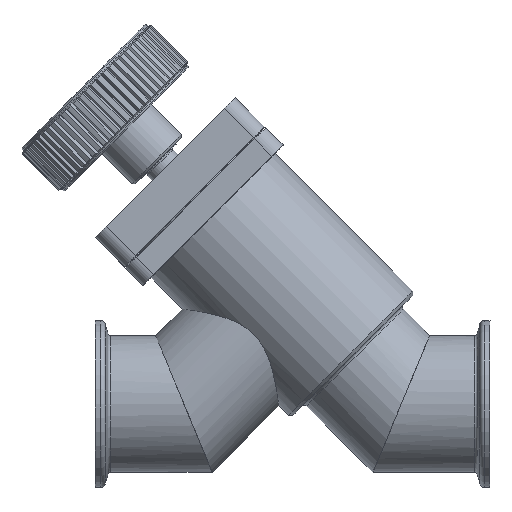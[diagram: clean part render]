
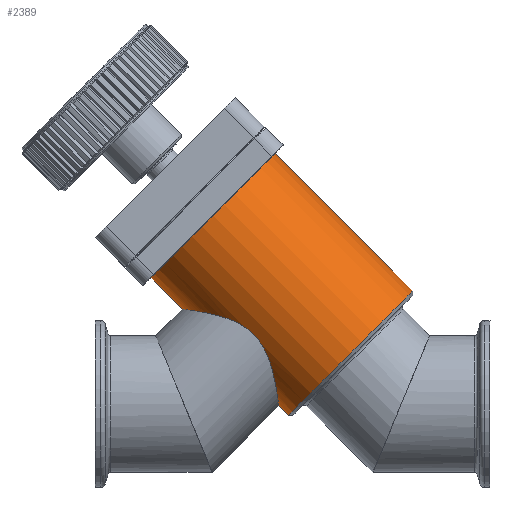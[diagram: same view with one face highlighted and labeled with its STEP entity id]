
A CAD part, top view. The second image highlights one B-rep face of the part: STEP entity #2389.
In plain terms, the highlighted cylindrical face has radius 28.95 mm (diameter 57.9 mm), a full revolution.
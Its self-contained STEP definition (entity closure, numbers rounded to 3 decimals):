
#1409=FACE_BOUND('',#3629,.T.);
#1410=FACE_BOUND('',#3630,.T.);
#1411=FACE_BOUND('',#3631,.T.);
#1959=B_SPLINE_CURVE_WITH_KNOTS('',3,(#13996,#13997,#13998,#13999,#14000,
#14001,#14002,#14003,#14004,#14005,#14006,#14007,#14008,#14009,#14010,#14011,
#14012,#14013,#14014,#14015,#14016,#14017,#14018,#14019,#14020,#14021,#14022,
#14023,#14024,#14025,#14026,#14027,#14028,#14029),.UNSPECIFIED.,.T.,.F.,
(2,2,2,2,2,2,2,2,2,2,2,2,2,2,2,2,2,2,2),(-0.063,0.,0.062,
0.125,0.188,0.25,0.313,0.375,0.437,0.5,
0.562,0.625,0.688,0.75,0.813,0.875,0.938,1.,1.063),
 .UNSPECIFIED.);
#2389=ADVANCED_FACE('',(#1409,#1410,#1411),#2859,.T.);
#2859=CYLINDRICAL_SURFACE('',#9820,28.95);
#3629=EDGE_LOOP('',(#5253));
#3630=EDGE_LOOP('',(#5254));
#3631=EDGE_LOOP('',(#5255));
#4255=CIRCLE('',#9818,28.95);
#4256=CIRCLE('',#9819,28.95);
#5253=ORIENTED_EDGE('',*,*,#7969,.T.);
#5254=ORIENTED_EDGE('',*,*,#7970,.T.);
#5255=ORIENTED_EDGE('',*,*,#7971,.F.);
#7152=VERTEX_POINT('',#13993);
#7153=VERTEX_POINT('',#13995);
#7154=VERTEX_POINT('',#14030);
#7969=EDGE_CURVE('',#7152,#7152,#4255,.T.);
#7970=EDGE_CURVE('',#7153,#7153,#4256,.T.);
#7971=EDGE_CURVE('',#7154,#7154,#1959,.T.);
#9818=AXIS2_PLACEMENT_3D('',#13992,#11325,#11326);
#9819=AXIS2_PLACEMENT_3D('',#13994,#11327,#11328);
#9820=AXIS2_PLACEMENT_3D('',#14031,#11329,#11330);
#11325=DIRECTION('',(1.,0.,0.));
#11326=DIRECTION('',(0.,0.,1.));
#11327=DIRECTION('',(-1.,0.,0.));
#11328=DIRECTION('',(0.,0.,1.));
#11329=DIRECTION('',(-1.,0.,0.));
#11330=DIRECTION('',(0.,0.,1.));
#13992=CARTESIAN_POINT('',(38.,0.,0.));
#13993=CARTESIAN_POINT('',(38.,0.,28.95));
#13994=CARTESIAN_POINT('',(102.,0.,0.));
#13995=CARTESIAN_POINT('',(102.,0.,28.95));
#13996=CARTESIAN_POINT('',(67.749,20.931,-20.));
#13997=CARTESIAN_POINT('',(62.251,20.931,-20.));
#13998=CARTESIAN_POINT('',(59.597,21.502,-19.429));
#13999=CARTESIAN_POINT('',(54.838,23.16,-17.419));
#14000=CARTESIAN_POINT('',(52.717,24.223,-15.984));
#14001=CARTESIAN_POINT('',(49.133,26.223,-12.433));
#14002=CARTESIAN_POINT('',(47.661,27.168,-10.307));
#14003=CARTESIAN_POINT('',(45.591,28.534,-5.493));
#14004=CARTESIAN_POINT('',(45.007,28.945,-2.776));
#14005=CARTESIAN_POINT('',(44.993,28.955,2.679));
#14006=CARTESIAN_POINT('',(45.56,28.556,5.383));
#14007=CARTESIAN_POINT('',(47.611,27.201,10.224));
#14008=CARTESIAN_POINT('',(49.083,26.253,12.374));
#14009=CARTESIAN_POINT('',(52.684,24.24,15.961));
#14010=CARTESIAN_POINT('',(54.771,23.188,17.383));
#14011=CARTESIAN_POINT('',(59.565,21.508,19.423));
#14012=CARTESIAN_POINT('',(62.255,20.937,19.994));
#14013=CARTESIAN_POINT('',(67.655,20.925,20.006));
#14014=CARTESIAN_POINT('',(70.367,21.491,19.442));
#14015=CARTESIAN_POINT('',(75.169,23.161,17.418));
#14016=CARTESIAN_POINT('',(77.271,24.217,15.994));
#14017=CARTESIAN_POINT('',(80.865,26.222,12.438));
#14018=CARTESIAN_POINT('',(82.346,27.173,10.296));
#14019=CARTESIAN_POINT('',(84.416,28.539,5.47));
#14020=CARTESIAN_POINT('',(84.994,28.946,2.756));
#14021=CARTESIAN_POINT('',(85.006,28.954,-2.662));
#14022=CARTESIAN_POINT('',(84.442,28.557,-5.386));
#14023=CARTESIAN_POINT('',(82.369,27.188,-10.263));
#14024=CARTESIAN_POINT('',(80.887,26.235,-12.409));
#14025=CARTESIAN_POINT('',(77.306,24.235,-15.967));
#14026=CARTESIAN_POINT('',(75.175,23.168,-17.409));
#14027=CARTESIAN_POINT('',(70.448,21.514,-19.414));
#14028=CARTESIAN_POINT('',(67.749,20.931,-20.));
#14029=CARTESIAN_POINT('',(62.251,20.931,-20.));
#14030=CARTESIAN_POINT('',(65.,20.931,-20.));
#14031=CARTESIAN_POINT('',(0.,0.,0.));
